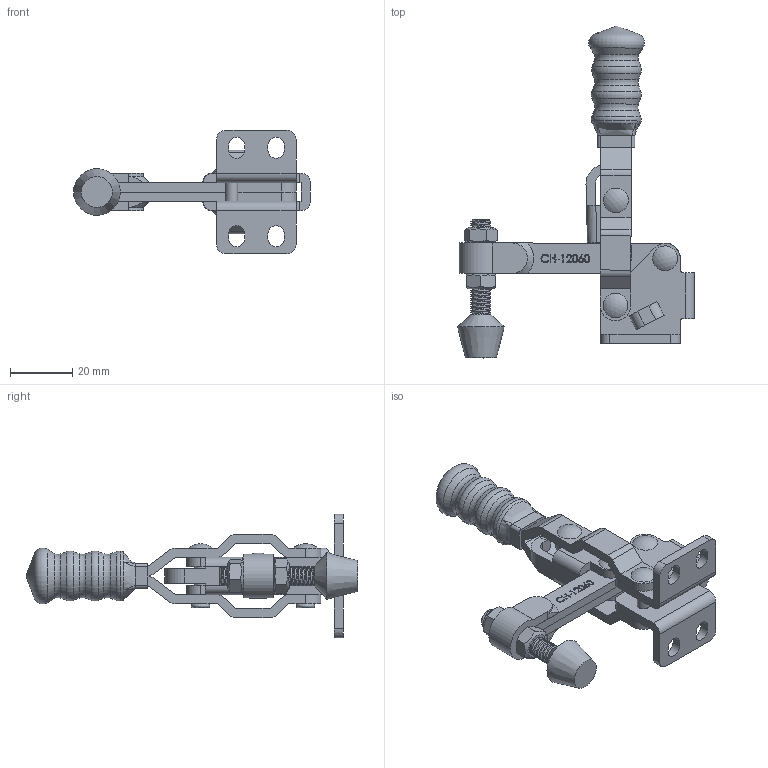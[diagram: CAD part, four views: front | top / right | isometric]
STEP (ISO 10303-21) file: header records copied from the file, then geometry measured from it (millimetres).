
FILE_DESCRIPTION(/* description */ ('STEP AP203'),/* implementation_level */ '2;1');
FILE_NAME(/* name */ 'D:\Vault_2016\Projekty\NASZ KATALOG\CLAMPTEK\STRONA\Vertical toggle clamp\CH-12060\CH-12060_ZAMKNIETY.stp',/* time_stamp */ '2019-01-18T12:50:00+01:00',/* author */ ('CADENGINEERING4'),/* organization */ ('Î¢ÈíÖÐ¹ú'),/* preprocessor_version */ 'ST-DEVELOPER v17.2',/* originating_system */ 'Autodesk Inventor 2019',/* authorisation */ '');
FILE_SCHEMA (('AUTOMOTIVE_DESIGN { 1 0 10303 214 3 1 1 }'));
Length unit declared in the file: millimetre
Products named in the file (10): CH-12060_ZAMKNIETY; CH-12050-01 FLANGED BASE; CH-12050-04 CONNECTING-PLATE; CH-12050-03 STRAIGHT HANDLE; CH-12050-06; CH-12050-05; CH-FC-14134 SPINDLE SUPPLIED; CH-FC-14134 Nut; CH-12050-07; CH-12060-02 SOLID BAR_Ä¬ÈÏ_°´¼
Ó¹¤_
Assembly tree (12 placements, depth 2):
  CH-12060_ZAMKNIETY
    CH-12050-01 FLANGED BASE
    CH-12050-04 CONNECTING-PLATE
    CH-12050-03 STRAIGHT HANDLE
    CH-12050-06  x2
    CH-12050-05
    CH-FC-14134 Nut  x2
    CH-FC-14134 SPINDLE SUPPLIED
    CH-12050-07  x2
    CH-12060-02 SOLID BAR_Ä¬ÈÏ_°´¼
Ó¹¤_
Bounding box: 76.21 x 106.83 x 39.8 mm (x, y, z)
Volume: 26871 mm3; surface area: 24038.4 mm2
Topology: 17 solids, 19 shells, 655 faces, 1810 edges, 1223 vertices
Faces by surface type: plane 287, bspline 190, cylinder 131, cone 27, torus 16, sphere 4
Full cylindrical faces by diameter (mm): 1.219 x1, 1.411 x1, 4 x20, 5.1 x6, 6.4 x26
Entity records: 38432 total; most frequent: CARTESIAN_POINT 23288, ORIENTED_EDGE 3428, DIRECTION 2445, EDGE_CURVE 1714, VERTEX_POINT 1159, LINE 939, VECTOR 939, AXIS2_PLACEMENT_3D 753
